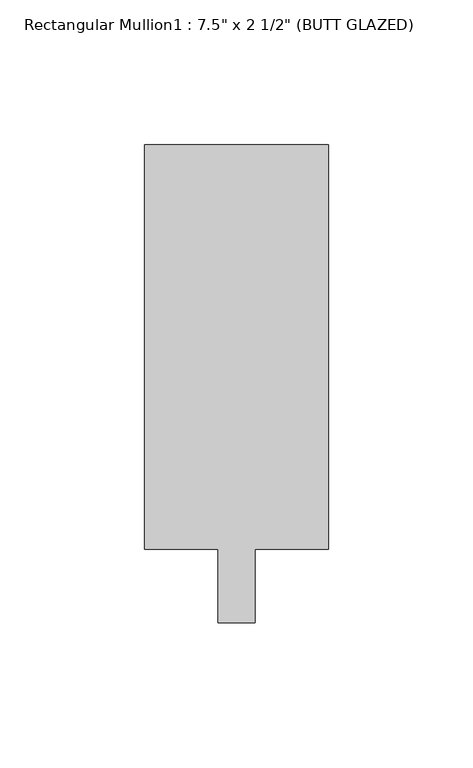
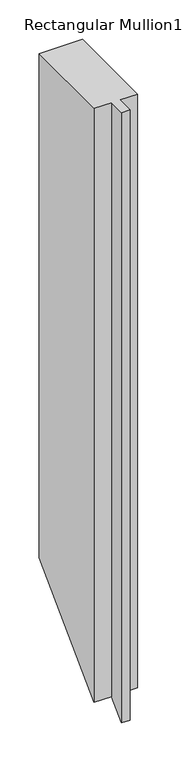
"""IFC4 building model written with IfcOpenShell, lengths in millimetres: member geometry."""

from ifc_helpers import new_model, si_unit, origin, place, context, project, spatial, faceted_brep, source, transform, mapped, element, save


def member_269015a8(model_context):
    return source(origin(), model_context, "Body", "Brep", [
        faceted_brep([(31.75, 165.1, 0.0), (-31.75, 165.1, 0.0), (-31.75, 25.4, 0.0), (-6.35, 25.4, 0.0), (-6.35, 0.0, 0.0), (6.35, 0.0, 0.0), (6.35, 25.4, 0.0), (31.75, 25.4, 0.0), (31.75, 165.1, -781.05), (-31.75, 165.1, -781.05), (-31.75, 25.4, -920.75), (-6.35, 25.4, -920.75), (-6.35, 0.0, -946.15), (6.35, 0.0, -946.15), (6.35, 25.4, -920.75), (31.75, 25.4, -920.75)], [[[0, 1, 2, 3, 4, 5, 6, 7]], [[1, 0, 8, 9]], [[2, 1, 9, 10]], [[3, 2, 10, 11]], [[4, 3, 11, 12]], [[5, 4, 12, 13]], [[6, 5, 13, 14]], [[7, 6, 14, 15]], [[0, 7, 15, 8]], [[8, 15, 14, 13, 12, 11, 10, 9]]]),
    ])


if __name__ == "__main__":
    model = new_model("IFC4")
    model_context = context("Model", 3, world=origin())
    ifc_project = project(units=[si_unit("LENGTHUNIT", "METRE", prefix="MILLI")], contexts=[model_context])
    site = spatial("IfcSite", under=ifc_project)
    building = spatial("IfcBuilding", under=site)
    placement = place(None, origin())
    member_shape = member_269015a8(model_context)
    element("IfcMember", 1, ObjectType="Rectangular Mullion1 : 7.5\" x 2 1/2\" (BUTT GLAZED)", at=placement, inside=building, context=model_context, shape_type="MappedRepresentation", body=[
        mapped(member_shape, transform((0.0, 0.0, 0.0), x_axis=(1.0, 0.0, 0.0), y_axis=(0.0, 1.0, 0.0), z_axis=(0.0, 0.0, 1.0))),
    ])
    save(model, "model.ifc")
